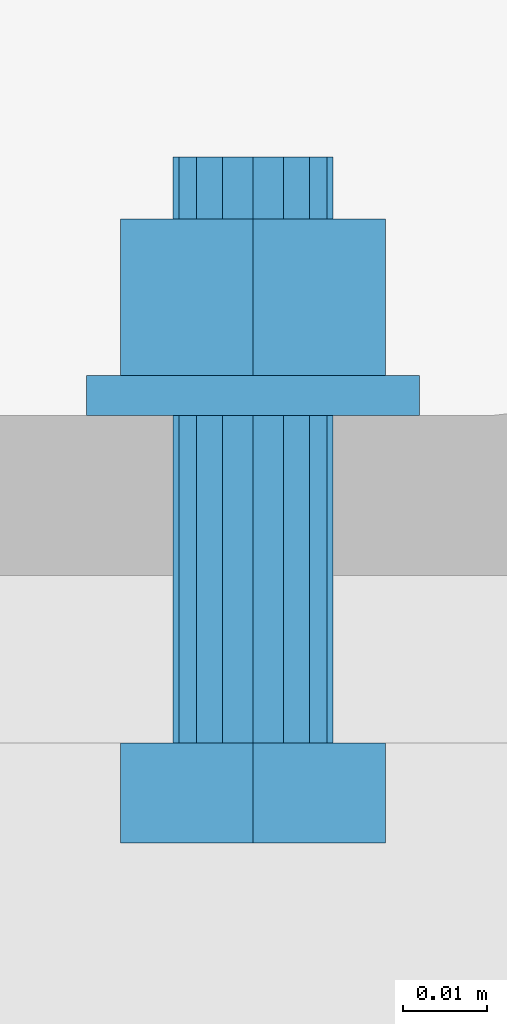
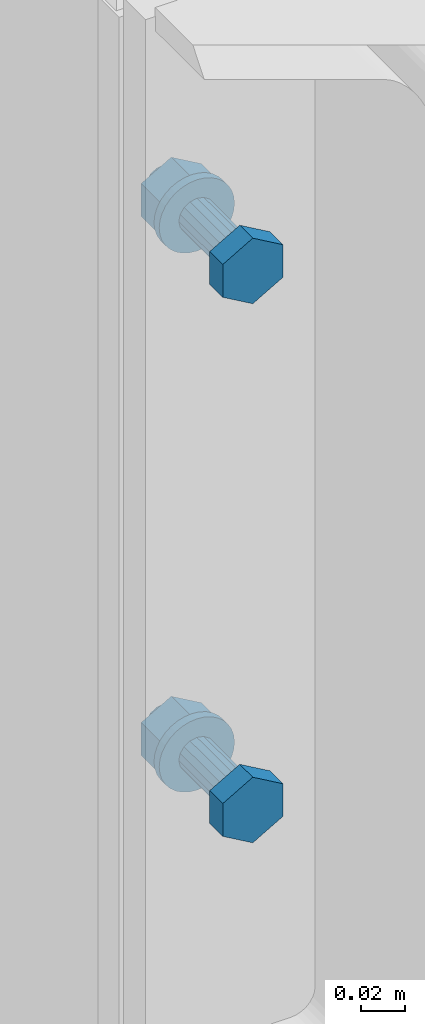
# Not in any storey, part 33 of 51: 2 mechanical fasteners.
"""IFC4 model written with IfcOpenShell, lengths in feet."""

from ifc_helpers import new_model, entity, si_unit, converted_unit, direction, origin, origin_with_axes, place, context, project, spatial, faceted_brep, element, save


model = new_model("IFC4")

# Units and contexts
model_context = context("Model", 3, precision=0.0001, world=origin(), true_north=direction((6.123233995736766e-17, 1.0)))
ifc_project = project(units=[converted_unit("LENGTHUNIT", "FOOT", entity("IfcLengthMeasure", 0.3048), si_unit("LENGTHUNIT", "METRE"), dimensions=[1, 0, 0, 0, 0, 0, 0]), converted_unit("AREAUNIT", "SQUARE INCH", entity("IfcAreaMeasure", 0.0006451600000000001), si_unit("AREAUNIT", "SQUARE_METRE"), dimensions=[2, 0, 0, 0, 0, 0, 0]), converted_unit("PLANEANGLEUNIT", "DEGREE", entity("IfcPlaneAngleMeasure", 0.017453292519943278), si_unit("PLANEANGLEUNIT", "RADIAN"), dimensions=[0, 0, 0, 0, 0, 0, 0]), si_unit("VOLUMEUNIT", "CUBIC_METRE")], contexts=[model_context])

# Site
site_placement = place(None, origin())
site = spatial("IfcSite", under=ifc_project, at=site_placement, Name="Default", CompositionType="ELEMENT")

# Mechanical fasteners
mechanical_fastener_1_placement = place(site_placement, origin_with_axes())
element("IfcMechanicalFastener", 1, at=mechanical_fastener_1_placement, inside=site, ObjectType="Bolt#3", NominalDiameter=0.0625, NominalLength=0.22916666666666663, context=model_context, shape_type="Brep", body=[
    faceted_brep([(43.96817369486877, 57.11617206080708, 19.146561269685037), (43.96817369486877, 57.07710972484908, 19.146561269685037), (43.91630238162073, 57.07710972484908, 19.11661335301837), (43.91630238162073, 57.11617206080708, 19.11661335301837), (43.8644310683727, 57.07710972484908, 19.146561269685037), (43.8644310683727, 57.11617206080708, 19.146561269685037), (43.8644310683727, 57.07710972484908, 19.206457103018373), (43.8644310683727, 57.11617206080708, 19.206457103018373), (43.91630238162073, 57.07710972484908, 19.23640501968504), (43.91630238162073, 57.11617206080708, 19.23640501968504), (43.96817369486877, 57.07710972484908, 19.206457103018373), (43.96817369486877, 57.11617206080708, 19.206457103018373)], [[[0, 1, 2, 3]], [[3, 2, 4, 5]], [[5, 4, 6, 7]], [[7, 6, 8, 9]], [[9, 8, 10, 11]], [[11, 10, 1, 0]], [[4, 2, 1, 10, 8, 6]], [[0, 3, 5, 7, 9, 11]]]),
    faceted_brep([(43.88505238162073, 57.11617206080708, 19.176509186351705), (43.88505238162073, 57.24428885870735, 19.176509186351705), (43.88743114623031, 57.24428885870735, 19.164550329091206), (43.88743114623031, 57.11617206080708, 19.164550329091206), (43.894205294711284, 57.24428885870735, 19.15441209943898), (43.894205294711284, 57.11617206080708, 19.15441209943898), (43.904343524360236, 57.24428885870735, 19.147637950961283), (43.904343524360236, 57.11617206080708, 19.147637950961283), (43.91630238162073, 57.24428885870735, 19.145259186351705), (43.91630238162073, 57.11617206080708, 19.145259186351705), (43.92826123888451, 57.24428885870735, 19.147637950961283), (43.92826123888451, 57.11617206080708, 19.147637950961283), (43.93839946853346, 57.24428885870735, 19.15441209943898), (43.93839946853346, 57.11617206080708, 19.15441209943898), (43.94517361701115, 57.24428885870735, 19.164550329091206), (43.94517361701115, 57.11617206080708, 19.164550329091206), (43.94755238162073, 57.24428885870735, 19.176509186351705), (43.94755238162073, 57.11617206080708, 19.176509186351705), (43.94517361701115, 57.24428885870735, 19.188468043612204), (43.94517361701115, 57.11617206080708, 19.188468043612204), (43.93839946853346, 57.24428885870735, 19.198606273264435), (43.93839946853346, 57.11617206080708, 19.198606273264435), (43.92826123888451, 57.24428885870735, 19.205380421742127), (43.92826123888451, 57.11617206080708, 19.205380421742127), (43.91630238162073, 57.24428885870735, 19.207759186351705), (43.91630238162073, 57.11617206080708, 19.207759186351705), (43.904343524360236, 57.24428885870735, 19.205380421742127), (43.904343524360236, 57.11617206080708, 19.205380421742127), (43.894205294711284, 57.24428885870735, 19.198606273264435), (43.894205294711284, 57.11617206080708, 19.198606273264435), (43.88743114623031, 57.24428885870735, 19.188468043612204), (43.88743114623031, 57.11617206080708, 19.188468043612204)], [[[0, 1, 2, 3]], [[3, 2, 4, 5]], [[5, 4, 6, 7]], [[7, 6, 8, 9]], [[9, 8, 10, 11]], [[11, 10, 12, 13]], [[13, 12, 14, 15]], [[15, 14, 16, 17]], [[17, 16, 18, 19]], [[19, 18, 20, 21]], [[21, 20, 22, 23]], [[23, 22, 24, 25]], [[25, 24, 26, 27]], [[27, 26, 28, 29]], [[29, 28, 30, 31]], [[31, 30, 1, 0]], [[0, 3, 5, 7, 9, 11, 13, 15, 17, 19, 21, 23, 25, 27, 29, 31]], [[1, 30, 28, 26, 24, 22, 20, 18, 16, 14, 12, 10, 8, 6, 4, 2]]]),
    faceted_brep([(43.85119821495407, 57.24428885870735, 19.176509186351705), (43.85119821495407, 57.25991385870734, 19.176509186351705), (43.85244917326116, 57.25991385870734, 19.1638079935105), (43.85244917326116, 57.24428885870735, 19.1638079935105), (43.85615397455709, 57.25991385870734, 19.151594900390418), (43.85615397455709, 57.24428885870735, 19.151594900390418), (43.86217024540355, 57.25991385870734, 19.14033924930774), (43.86217024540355, 57.24428885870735, 19.14033924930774), (43.87026678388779, 57.25991385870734, 19.130473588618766), (43.87026678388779, 57.24428885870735, 19.130473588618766), (43.88013244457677, 57.25991385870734, 19.122377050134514), (43.88013244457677, 57.24428885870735, 19.122377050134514), (43.891388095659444, 57.25991385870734, 19.11636077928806), (43.891388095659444, 57.24428885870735, 19.11636077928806), (43.90360118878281, 57.25991385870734, 19.112655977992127), (43.90360118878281, 57.24428885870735, 19.112655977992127), (43.91630238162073, 57.25991385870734, 19.111405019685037), (43.91630238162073, 57.24428885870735, 19.111405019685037), (43.92900357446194, 57.25991385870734, 19.112655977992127), (43.92900357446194, 57.24428885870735, 19.112655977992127), (43.94121666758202, 57.25991385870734, 19.11636077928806), (43.94121666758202, 57.24428885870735, 19.11636077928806), (43.95247231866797, 57.25991385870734, 19.122377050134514), (43.95247231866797, 57.24428885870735, 19.122377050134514), (43.96233797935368, 57.25991385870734, 19.130473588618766), (43.96233797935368, 57.24428885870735, 19.130473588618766), (43.97043451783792, 57.25991385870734, 19.14033924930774), (43.97043451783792, 57.24428885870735, 19.14033924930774), (43.976450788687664, 57.25991385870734, 19.151594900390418), (43.976450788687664, 57.24428885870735, 19.151594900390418), (43.98015558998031, 57.25991385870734, 19.1638079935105), (43.98015558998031, 57.24428885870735, 19.1638079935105), (43.981406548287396, 57.25991385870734, 19.176509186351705), (43.981406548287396, 57.24428885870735, 19.176509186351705), (43.98015558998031, 57.25991385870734, 19.18921037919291), (43.98015558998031, 57.24428885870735, 19.18921037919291), (43.976450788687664, 57.25991385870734, 19.201423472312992), (43.976450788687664, 57.24428885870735, 19.201423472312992), (43.97043451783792, 57.25991385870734, 19.21267912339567), (43.97043451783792, 57.24428885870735, 19.21267912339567), (43.96233797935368, 57.25991385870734, 19.222544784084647), (43.96233797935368, 57.24428885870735, 19.222544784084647), (43.95247231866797, 57.25991385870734, 19.230641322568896), (43.95247231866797, 57.24428885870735, 19.230641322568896), (43.94121666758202, 57.25991385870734, 19.23665759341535), (43.94121666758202, 57.24428885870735, 19.23665759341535), (43.92900357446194, 57.25991385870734, 19.240362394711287), (43.92900357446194, 57.24428885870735, 19.240362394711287), (43.91630238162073, 57.25991385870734, 19.241613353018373), (43.91630238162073, 57.24428885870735, 19.241613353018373), (43.90360118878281, 57.25991385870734, 19.240362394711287), (43.90360118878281, 57.24428885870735, 19.240362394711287), (43.891388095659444, 57.25991385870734, 19.23665759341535), (43.891388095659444, 57.24428885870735, 19.23665759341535), (43.88013244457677, 57.25991385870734, 19.230641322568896), (43.88013244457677, 57.24428885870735, 19.230641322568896), (43.87026678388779, 57.25991385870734, 19.222544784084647), (43.87026678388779, 57.24428885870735, 19.222544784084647), (43.86217024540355, 57.25991385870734, 19.21267912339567), (43.86217024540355, 57.24428885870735, 19.21267912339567), (43.85615397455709, 57.25991385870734, 19.201423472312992), (43.85615397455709, 57.24428885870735, 19.201423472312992), (43.85244917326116, 57.25991385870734, 19.18921037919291), (43.85244917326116, 57.24428885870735, 19.18921037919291)], [[[0, 1, 2, 3]], [[3, 2, 4, 5]], [[5, 4, 6, 7]], [[7, 6, 8, 9]], [[9, 8, 10, 11]], [[11, 10, 12, 13]], [[13, 12, 14, 15]], [[15, 14, 16, 17]], [[17, 16, 18, 19]], [[19, 18, 20, 21]], [[21, 20, 22, 23]], [[23, 22, 24, 25]], [[25, 24, 26, 27]], [[27, 26, 28, 29]], [[29, 28, 30, 31]], [[31, 30, 32, 33]], [[33, 32, 34, 35]], [[35, 34, 36, 37]], [[37, 36, 38, 39]], [[39, 38, 40, 41]], [[41, 40, 42, 43]], [[43, 42, 44, 45]], [[45, 44, 46, 47]], [[47, 46, 48, 49]], [[49, 48, 50, 51]], [[51, 50, 52, 53]], [[53, 52, 54, 55]], [[55, 54, 56, 57]], [[57, 56, 58, 59]], [[59, 58, 60, 61]], [[61, 60, 62, 63]], [[63, 62, 1, 0]], [[0, 3, 5, 7, 9, 11, 13, 15, 17, 19, 21, 23, 25, 27, 29, 31, 33, 35, 37, 39, 41, 43, 45, 47, 49, 51, 53, 55, 57, 59, 61, 63]], [[1, 62, 60, 58, 56, 54, 52, 50, 48, 46, 44, 42, 40, 38, 36, 34, 32, 30, 28, 26, 24, 22, 20, 18, 16, 14, 12, 10, 8, 6, 4, 2]]]),
    faceted_brep([(43.96817369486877, 57.321111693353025, 19.146561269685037), (43.96817369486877, 57.25991385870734, 19.146561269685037), (43.91630238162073, 57.25991385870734, 19.11661335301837), (43.91630238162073, 57.321111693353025, 19.11661335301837), (43.8644310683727, 57.25991385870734, 19.146561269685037), (43.8644310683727, 57.321111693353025, 19.146561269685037), (43.8644310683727, 57.25991385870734, 19.206457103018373), (43.8644310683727, 57.321111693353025, 19.206457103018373), (43.91630238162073, 57.25991385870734, 19.23640501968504), (43.91630238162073, 57.321111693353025, 19.23640501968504), (43.96817369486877, 57.25991385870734, 19.206457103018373), (43.96817369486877, 57.321111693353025, 19.206457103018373)], [[[0, 1, 2, 3]], [[3, 2, 4, 5]], [[5, 4, 6, 7]], [[7, 6, 8, 9]], [[9, 8, 10, 11]], [[11, 10, 1, 0]], [[4, 2, 1, 10, 8, 6]], [[0, 3, 5, 7, 9, 11]]]),
    faceted_brep([(43.88505238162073, 57.321111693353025, 19.176509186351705), (43.88505238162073, 57.34533872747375, 19.176509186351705), (43.88743114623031, 57.34533872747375, 19.164550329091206), (43.88743114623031, 57.321111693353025, 19.164550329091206), (43.894205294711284, 57.34533872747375, 19.15441209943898), (43.894205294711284, 57.321111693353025, 19.15441209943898), (43.904343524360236, 57.34533872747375, 19.147637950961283), (43.904343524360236, 57.321111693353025, 19.147637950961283), (43.91630238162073, 57.34533872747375, 19.145259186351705), (43.91630238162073, 57.321111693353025, 19.145259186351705), (43.92826123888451, 57.34533872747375, 19.147637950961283), (43.92826123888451, 57.321111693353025, 19.147637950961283), (43.93839946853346, 57.34533872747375, 19.15441209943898), (43.93839946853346, 57.321111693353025, 19.15441209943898), (43.94517361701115, 57.34533872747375, 19.164550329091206), (43.94517361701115, 57.321111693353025, 19.164550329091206), (43.94755238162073, 57.34533872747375, 19.176509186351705), (43.94755238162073, 57.321111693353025, 19.176509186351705), (43.94517361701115, 57.34533872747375, 19.188468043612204), (43.94517361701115, 57.321111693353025, 19.188468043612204), (43.93839946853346, 57.34533872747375, 19.198606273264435), (43.93839946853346, 57.321111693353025, 19.198606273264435), (43.92826123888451, 57.34533872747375, 19.205380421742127), (43.92826123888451, 57.321111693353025, 19.205380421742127), (43.91630238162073, 57.34533872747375, 19.207759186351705), (43.91630238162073, 57.321111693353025, 19.207759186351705), (43.904343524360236, 57.34533872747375, 19.205380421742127), (43.904343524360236, 57.321111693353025, 19.205380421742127), (43.894205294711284, 57.34533872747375, 19.198606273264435), (43.894205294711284, 57.321111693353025, 19.198606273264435), (43.88743114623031, 57.34533872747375, 19.188468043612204), (43.88743114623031, 57.321111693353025, 19.188468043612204)], [[[0, 1, 2, 3]], [[3, 2, 4, 5]], [[5, 4, 6, 7]], [[7, 6, 8, 9]], [[9, 8, 10, 11]], [[11, 10, 12, 13]], [[13, 12, 14, 15]], [[15, 14, 16, 17]], [[17, 16, 18, 19]], [[19, 18, 20, 21]], [[21, 20, 22, 23]], [[23, 22, 24, 25]], [[25, 24, 26, 27]], [[27, 26, 28, 29]], [[29, 28, 30, 31]], [[31, 30, 1, 0]], [[0, 3, 5, 7, 9, 11, 13, 15, 17, 19, 21, 23, 25, 27, 29, 31]], [[1, 30, 28, 26, 24, 22, 20, 18, 16, 14, 12, 10, 8, 6, 4, 2]]]),
])
mechanical_fastener_2_placement = place(site_placement, origin_with_axes())
element("IfcMechanicalFastener", 2, at=mechanical_fastener_2_placement, inside=site, ObjectType="Bolt#4", NominalDiameter=0.0625, NominalLength=0.22916666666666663, context=model_context, shape_type="Brep", body=[
    faceted_brep([(43.96817369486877, 57.11617206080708, 18.1623093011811), (43.96817369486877, 57.07710972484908, 18.1623093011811), (43.91630238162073, 57.07710972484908, 18.132361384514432), (43.91630238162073, 57.11617206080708, 18.132361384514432), (43.8644310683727, 57.07710972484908, 18.1623093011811), (43.8644310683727, 57.11617206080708, 18.1623093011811), (43.8644310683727, 57.07710972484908, 18.222205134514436), (43.8644310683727, 57.11617206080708, 18.222205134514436), (43.91630238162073, 57.07710972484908, 18.252153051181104), (43.91630238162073, 57.11617206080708, 18.252153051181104), (43.96817369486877, 57.07710972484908, 18.222205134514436), (43.96817369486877, 57.11617206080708, 18.222205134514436)], [[[0, 1, 2, 3]], [[3, 2, 4, 5]], [[5, 4, 6, 7]], [[7, 6, 8, 9]], [[9, 8, 10, 11]], [[11, 10, 1, 0]], [[4, 2, 1, 10, 8, 6]], [[0, 3, 5, 7, 9, 11]]]),
    faceted_brep([(43.88505238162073, 57.11617206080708, 18.192257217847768), (43.88505238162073, 57.24428885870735, 18.192257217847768), (43.88743114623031, 57.24428885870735, 18.18029836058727), (43.88743114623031, 57.11617206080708, 18.18029836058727), (43.894205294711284, 57.24428885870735, 18.17016013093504), (43.894205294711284, 57.11617206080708, 18.17016013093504), (43.904343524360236, 57.24428885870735, 18.163385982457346), (43.904343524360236, 57.11617206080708, 18.163385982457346), (43.91630238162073, 57.24428885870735, 18.161007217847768), (43.91630238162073, 57.11617206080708, 18.161007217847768), (43.92826123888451, 57.24428885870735, 18.163385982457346), (43.92826123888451, 57.11617206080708, 18.163385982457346), (43.93839946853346, 57.24428885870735, 18.17016013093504), (43.93839946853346, 57.11617206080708, 18.17016013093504), (43.94517361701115, 57.24428885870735, 18.18029836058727), (43.94517361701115, 57.11617206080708, 18.18029836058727), (43.94755238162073, 57.24428885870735, 18.192257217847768), (43.94755238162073, 57.11617206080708, 18.192257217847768), (43.94517361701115, 57.24428885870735, 18.204216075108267), (43.94517361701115, 57.11617206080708, 18.204216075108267), (43.93839946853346, 57.24428885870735, 18.214354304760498), (43.93839946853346, 57.11617206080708, 18.214354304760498), (43.92826123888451, 57.24428885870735, 18.22112845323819), (43.92826123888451, 57.11617206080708, 18.22112845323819), (43.91630238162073, 57.24428885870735, 18.223507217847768), (43.91630238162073, 57.11617206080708, 18.223507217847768), (43.904343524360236, 57.24428885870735, 18.22112845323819), (43.904343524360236, 57.11617206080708, 18.22112845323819), (43.894205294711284, 57.24428885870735, 18.214354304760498), (43.894205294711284, 57.11617206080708, 18.214354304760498), (43.88743114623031, 57.24428885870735, 18.204216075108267), (43.88743114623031, 57.11617206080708, 18.204216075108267)], [[[0, 1, 2, 3]], [[3, 2, 4, 5]], [[5, 4, 6, 7]], [[7, 6, 8, 9]], [[9, 8, 10, 11]], [[11, 10, 12, 13]], [[13, 12, 14, 15]], [[15, 14, 16, 17]], [[17, 16, 18, 19]], [[19, 18, 20, 21]], [[21, 20, 22, 23]], [[23, 22, 24, 25]], [[25, 24, 26, 27]], [[27, 26, 28, 29]], [[29, 28, 30, 31]], [[31, 30, 1, 0]], [[0, 3, 5, 7, 9, 11, 13, 15, 17, 19, 21, 23, 25, 27, 29, 31]], [[1, 30, 28, 26, 24, 22, 20, 18, 16, 14, 12, 10, 8, 6, 4, 2]]]),
    faceted_brep([(43.85119821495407, 57.24428885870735, 18.192257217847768), (43.85119821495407, 57.25991385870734, 18.192257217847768), (43.85244917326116, 57.25991385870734, 18.179556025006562), (43.85244917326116, 57.24428885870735, 18.179556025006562), (43.85615397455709, 57.25991385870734, 18.16734293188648), (43.85615397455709, 57.24428885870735, 18.16734293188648), (43.86217024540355, 57.25991385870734, 18.156087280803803), (43.86217024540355, 57.24428885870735, 18.156087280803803), (43.87026678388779, 57.25991385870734, 18.14622162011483), (43.87026678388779, 57.24428885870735, 18.14622162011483), (43.88013244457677, 57.25991385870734, 18.138125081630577), (43.88013244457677, 57.24428885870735, 18.138125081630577), (43.891388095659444, 57.25991385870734, 18.13210881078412), (43.891388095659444, 57.24428885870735, 18.13210881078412), (43.90360118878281, 57.25991385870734, 18.12840400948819), (43.90360118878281, 57.24428885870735, 18.12840400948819), (43.91630238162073, 57.25991385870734, 18.1271530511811), (43.91630238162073, 57.24428885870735, 18.1271530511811), (43.92900357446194, 57.25991385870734, 18.12840400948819), (43.92900357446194, 57.24428885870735, 18.12840400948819), (43.94121666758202, 57.25991385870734, 18.13210881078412), (43.94121666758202, 57.24428885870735, 18.13210881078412), (43.95247231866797, 57.25991385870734, 18.138125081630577), (43.95247231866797, 57.24428885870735, 18.138125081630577), (43.96233797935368, 57.25991385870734, 18.14622162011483), (43.96233797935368, 57.24428885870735, 18.14622162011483), (43.97043451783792, 57.25991385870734, 18.156087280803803), (43.97043451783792, 57.24428885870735, 18.156087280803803), (43.976450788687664, 57.25991385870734, 18.16734293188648), (43.976450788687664, 57.24428885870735, 18.16734293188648), (43.98015558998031, 57.25991385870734, 18.179556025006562), (43.98015558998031, 57.24428885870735, 18.179556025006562), (43.981406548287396, 57.25991385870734, 18.192257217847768), (43.981406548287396, 57.24428885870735, 18.192257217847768), (43.98015558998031, 57.25991385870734, 18.204958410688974), (43.98015558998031, 57.24428885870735, 18.204958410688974), (43.976450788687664, 57.25991385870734, 18.217171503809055), (43.976450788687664, 57.24428885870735, 18.217171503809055), (43.97043451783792, 57.25991385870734, 18.228427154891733), (43.97043451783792, 57.24428885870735, 18.228427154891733), (43.96233797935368, 57.25991385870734, 18.23829281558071), (43.96233797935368, 57.24428885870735, 18.23829281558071), (43.95247231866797, 57.25991385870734, 18.24638935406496), (43.95247231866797, 57.24428885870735, 18.24638935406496), (43.94121666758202, 57.25991385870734, 18.252405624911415), (43.94121666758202, 57.24428885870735, 18.252405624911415), (43.92900357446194, 57.25991385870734, 18.25611042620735), (43.92900357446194, 57.24428885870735, 18.25611042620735), (43.91630238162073, 57.25991385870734, 18.257361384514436), (43.91630238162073, 57.24428885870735, 18.257361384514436), (43.90360118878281, 57.25991385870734, 18.25611042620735), (43.90360118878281, 57.24428885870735, 18.25611042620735), (43.891388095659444, 57.25991385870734, 18.252405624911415), (43.891388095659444, 57.24428885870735, 18.252405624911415), (43.88013244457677, 57.25991385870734, 18.24638935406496), (43.88013244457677, 57.24428885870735, 18.24638935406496), (43.87026678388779, 57.25991385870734, 18.23829281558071), (43.87026678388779, 57.24428885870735, 18.23829281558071), (43.86217024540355, 57.25991385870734, 18.228427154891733), (43.86217024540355, 57.24428885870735, 18.228427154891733), (43.85615397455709, 57.25991385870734, 18.217171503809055), (43.85615397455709, 57.24428885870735, 18.217171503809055), (43.85244917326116, 57.25991385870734, 18.204958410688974), (43.85244917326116, 57.24428885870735, 18.204958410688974)], [[[0, 1, 2, 3]], [[3, 2, 4, 5]], [[5, 4, 6, 7]], [[7, 6, 8, 9]], [[9, 8, 10, 11]], [[11, 10, 12, 13]], [[13, 12, 14, 15]], [[15, 14, 16, 17]], [[17, 16, 18, 19]], [[19, 18, 20, 21]], [[21, 20, 22, 23]], [[23, 22, 24, 25]], [[25, 24, 26, 27]], [[27, 26, 28, 29]], [[29, 28, 30, 31]], [[31, 30, 32, 33]], [[33, 32, 34, 35]], [[35, 34, 36, 37]], [[37, 36, 38, 39]], [[39, 38, 40, 41]], [[41, 40, 42, 43]], [[43, 42, 44, 45]], [[45, 44, 46, 47]], [[47, 46, 48, 49]], [[49, 48, 50, 51]], [[51, 50, 52, 53]], [[53, 52, 54, 55]], [[55, 54, 56, 57]], [[57, 56, 58, 59]], [[59, 58, 60, 61]], [[61, 60, 62, 63]], [[63, 62, 1, 0]], [[0, 3, 5, 7, 9, 11, 13, 15, 17, 19, 21, 23, 25, 27, 29, 31, 33, 35, 37, 39, 41, 43, 45, 47, 49, 51, 53, 55, 57, 59, 61, 63]], [[1, 62, 60, 58, 56, 54, 52, 50, 48, 46, 44, 42, 40, 38, 36, 34, 32, 30, 28, 26, 24, 22, 20, 18, 16, 14, 12, 10, 8, 6, 4, 2]]]),
    faceted_brep([(43.96817369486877, 57.321111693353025, 18.1623093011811), (43.96817369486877, 57.25991385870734, 18.1623093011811), (43.91630238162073, 57.25991385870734, 18.132361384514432), (43.91630238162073, 57.321111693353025, 18.132361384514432), (43.8644310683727, 57.25991385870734, 18.1623093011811), (43.8644310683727, 57.321111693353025, 18.1623093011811), (43.8644310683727, 57.25991385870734, 18.222205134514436), (43.8644310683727, 57.321111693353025, 18.222205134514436), (43.91630238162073, 57.25991385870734, 18.252153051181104), (43.91630238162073, 57.321111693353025, 18.252153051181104), (43.96817369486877, 57.25991385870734, 18.222205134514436), (43.96817369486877, 57.321111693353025, 18.222205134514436)], [[[0, 1, 2, 3]], [[3, 2, 4, 5]], [[5, 4, 6, 7]], [[7, 6, 8, 9]], [[9, 8, 10, 11]], [[11, 10, 1, 0]], [[4, 2, 1, 10, 8, 6]], [[0, 3, 5, 7, 9, 11]]]),
    faceted_brep([(43.88505238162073, 57.321111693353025, 18.192257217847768), (43.88505238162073, 57.34533872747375, 18.192257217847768), (43.88743114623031, 57.34533872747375, 18.18029836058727), (43.88743114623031, 57.321111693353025, 18.18029836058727), (43.894205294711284, 57.34533872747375, 18.17016013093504), (43.894205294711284, 57.321111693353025, 18.17016013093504), (43.904343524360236, 57.34533872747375, 18.163385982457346), (43.904343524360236, 57.321111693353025, 18.163385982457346), (43.91630238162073, 57.34533872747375, 18.161007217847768), (43.91630238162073, 57.321111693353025, 18.161007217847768), (43.92826123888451, 57.34533872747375, 18.163385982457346), (43.92826123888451, 57.321111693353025, 18.163385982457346), (43.93839946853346, 57.34533872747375, 18.17016013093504), (43.93839946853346, 57.321111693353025, 18.17016013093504), (43.94517361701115, 57.34533872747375, 18.18029836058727), (43.94517361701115, 57.321111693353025, 18.18029836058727), (43.94755238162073, 57.34533872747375, 18.192257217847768), (43.94755238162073, 57.321111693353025, 18.192257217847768), (43.94517361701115, 57.34533872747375, 18.204216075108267), (43.94517361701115, 57.321111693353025, 18.204216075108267), (43.93839946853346, 57.34533872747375, 18.214354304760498), (43.93839946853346, 57.321111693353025, 18.214354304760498), (43.92826123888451, 57.34533872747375, 18.22112845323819), (43.92826123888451, 57.321111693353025, 18.22112845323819), (43.91630238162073, 57.34533872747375, 18.223507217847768), (43.91630238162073, 57.321111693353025, 18.223507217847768), (43.904343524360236, 57.34533872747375, 18.22112845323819), (43.904343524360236, 57.321111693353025, 18.22112845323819), (43.894205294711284, 57.34533872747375, 18.214354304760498), (43.894205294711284, 57.321111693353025, 18.214354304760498), (43.88743114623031, 57.34533872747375, 18.204216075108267), (43.88743114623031, 57.321111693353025, 18.204216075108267)], [[[0, 1, 2, 3]], [[3, 2, 4, 5]], [[5, 4, 6, 7]], [[7, 6, 8, 9]], [[9, 8, 10, 11]], [[11, 10, 12, 13]], [[13, 12, 14, 15]], [[15, 14, 16, 17]], [[17, 16, 18, 19]], [[19, 18, 20, 21]], [[21, 20, 22, 23]], [[23, 22, 24, 25]], [[25, 24, 26, 27]], [[27, 26, 28, 29]], [[29, 28, 30, 31]], [[31, 30, 1, 0]], [[0, 3, 5, 7, 9, 11, 13, 15, 17, 19, 21, 23, 25, 27, 29, 31]], [[1, 30, 28, 26, 24, 22, 20, 18, 16, 14, 12, 10, 8, 6, 4, 2]]]),
])

save(model, "model.ifc")
